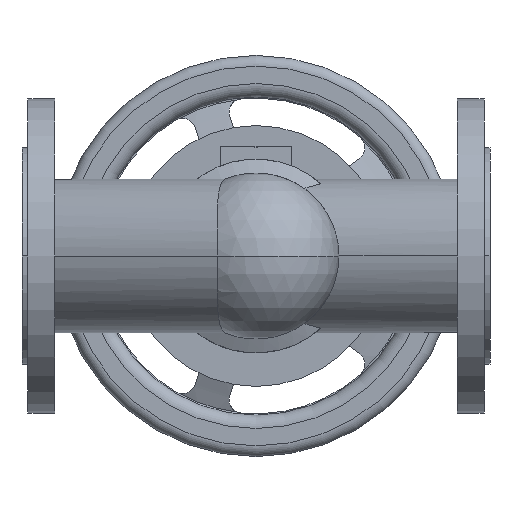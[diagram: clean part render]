
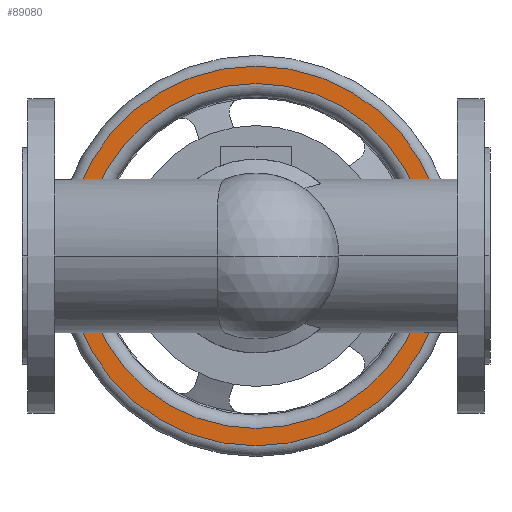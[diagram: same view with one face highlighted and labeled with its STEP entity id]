
A CAD part, front view. The second image highlights one B-rep face of the part: STEP entity #89080.
In plain terms, the highlighted planar face has unit normal (0, -1, 0).
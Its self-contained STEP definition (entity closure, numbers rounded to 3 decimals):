
#88470=CARTESIAN_POINT('',(46.,405.3,0.));
#88480=VERTEX_POINT('',#88470);
#88580=CARTESIAN_POINT('',(304.,405.3,0.));
#88590=VERTEX_POINT('',#88580);
#88620=CARTESIAN_POINT('',(175.,405.3,0.));
#88630=DIRECTION('',(0.,1.,0.));
#88640=DIRECTION('',(-1.,0.,0.));
#88650=AXIS2_PLACEMENT_3D('',#88620,#88630,#88640);
#88660=CIRCLE('',#88650,129.);
#88670=EDGE_CURVE('',#88590,#88480,#88660,.T.);
#88790=CARTESIAN_POINT('',(39.5,405.3,0.))
;
#88800=DIRECTION('',(0.,-1.,0.));
#88810=DIRECTION('',(1.,0.,0.));
#88820=AXIS2_PLACEMENT_3D('',#88790,#88800,#88810);
#88830=PLANE('',#88820);
#88840=CARTESIAN_POINT('',(175.,405.3,0.));
#88850=DIRECTION('',(0.,1.,0.));
#88860=DIRECTION('',(-1.,0.,0.));
#88870=AXIS2_PLACEMENT_3D('',#88840,#88850,#88860);
#88880=CIRCLE('',#88870,142.);
#88890=CARTESIAN_POINT('',(175.,405.3,142.));
#88900=VERTEX_POINT('',#88890);
#88910=CARTESIAN_POINT('',(317.,405.3,0.));
#88920=VERTEX_POINT('',#88910);
#88930=EDGE_CURVE('',#88900,#88920,#88880,.T.);
#88940=ORIENTED_EDGE('',*,*,#88930,.F.);
#88950=CARTESIAN_POINT('',(33.,405.3,0.));
#88960=VERTEX_POINT('',#88950);
#88970=EDGE_CURVE('',#88920,#88960,#88880,.T.);
#88980=ORIENTED_EDGE('',*,*,#88970,.F.);
#88990=EDGE_CURVE('',#88960,#88900,#88880,.T.);
#89000=ORIENTED_EDGE('',*,*,#88990,.F.);
#89010=EDGE_LOOP('',(#89000,#88980,#88940));
#89020=FACE_OUTER_BOUND('',#89010,.T.);
#89030=EDGE_CURVE('',#88480,#88590,#88660,.T.);
#89040=ORIENTED_EDGE('',*,*,#89030,.T.);
#89050=ORIENTED_EDGE('',*,*,#88670,.T.);
#89060=EDGE_LOOP('',(#89050,#89040));
#89070=FACE_BOUND('',#89060,.T.);
#89080=ADVANCED_FACE('',(#89020,#89070),#88830,.T.);
